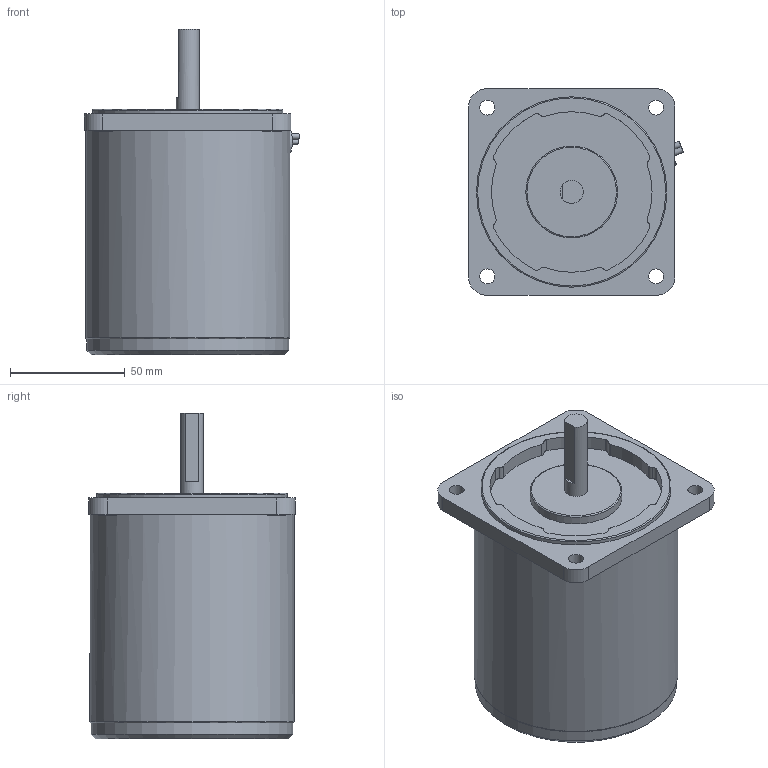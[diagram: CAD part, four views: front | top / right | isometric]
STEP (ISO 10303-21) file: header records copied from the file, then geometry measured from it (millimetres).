
FILE_DESCRIPTION((''),'2;1');
FILE_NAME('E:\2공장-도면\3D\표준형 3D(민규)\step file\표준\K9IS40Nㅁ.stp','2014-11-13T17:45:18',('AHN'),(''),'Autodesk Inventor 2012','Autodesk Inventor 2012','');
FILE_SCHEMA(('CONFIG_CONTROL_DESIGN'));
Length unit declared in the file: millimetre
Products named in the file (1): K9IS40Nㅁ
Bounding box: 93.75 x 90 x 142 mm (x, y, z)
Volume: 657726.7 mm3; surface area: 49590.5 mm2
Topology: 1 solids, 1 shells, 74 faces, 175 edges, 110 vertices
Faces by surface type: cylinder 48, plane 22, torus 3, cone 1
Full cylindrical faces by diameter (mm): 6.5 x4, 8 x4, 10 x1, 40 x1, 83 x1, 88 x1, 89 x1
Entity records: 2104 total; most frequent: DIRECTION 401, CARTESIAN_POINT 363, ORIENTED_EDGE 306, AXIS2_PLACEMENT_3D 174, EDGE_CURVE 153, EDGE_LOOP 109, VERTEX_POINT 105, CIRCLE 99
